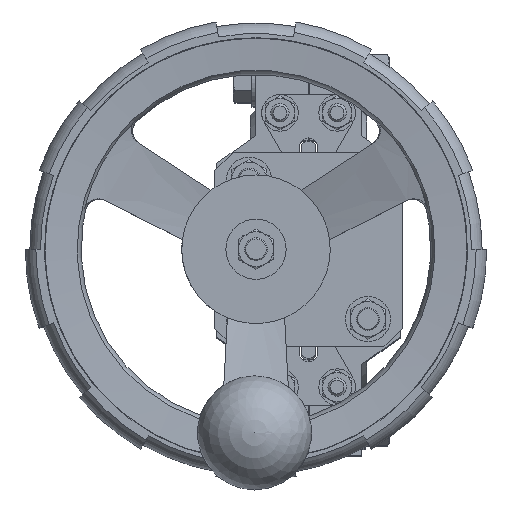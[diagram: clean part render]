
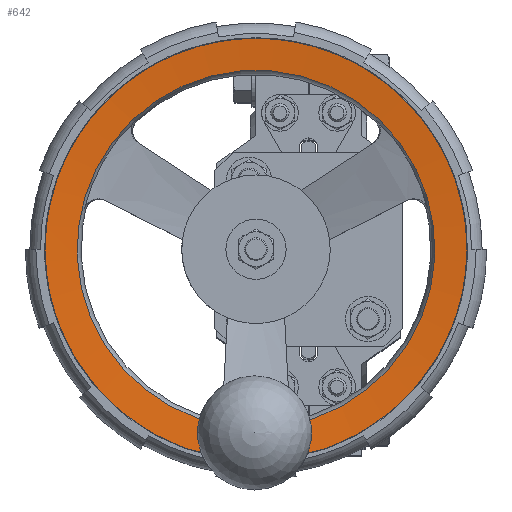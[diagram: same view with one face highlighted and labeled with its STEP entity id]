
A CAD part, top view. The second image highlights one B-rep face of the part: STEP entity #642.
In plain terms, the highlighted conical face has half-angle 85 degrees and reference radius 92.5 mm.
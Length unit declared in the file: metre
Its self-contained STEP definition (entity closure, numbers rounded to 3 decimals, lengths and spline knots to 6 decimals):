
#642=ADVANCED_FACE('',(#2693),#2694,.F.);
#2693=FACE_OUTER_BOUND('',#6137,.T.);
#2694=CONICAL_SURFACE('',#6138,0.0925,1.484);
#6137=EDGE_LOOP('',(#12656,#12657,#12658,#12659,#12660,#12661));
#6138=AXIS2_PLACEMENT_3D('',#12662,#12663,#12664);
#12656=ORIENTED_EDGE('',*,*,#20806,.F.);
#12657=ORIENTED_EDGE('',*,*,#20798,.T.);
#12658=ORIENTED_EDGE('',*,*,#20807,.T.);
#12659=ORIENTED_EDGE('',*,*,#20808,.T.);
#12660=ORIENTED_EDGE('',*,*,#20809,.T.);
#12661=ORIENTED_EDGE('',*,*,#20791,.T.);
#12662=CARTESIAN_POINT('',(-0.023,0.,0.345244));
#12663=DIRECTION('',(0.,0.,1.));
#12664=DIRECTION('',(0.,1.,0.));
#20791=EDGE_CURVE('',#25201,#25198,#25202,.T.);
#20798=EDGE_CURVE('',#25214,#25215,#25216,.T.);
#20806=EDGE_CURVE('',#25214,#25198,#25230,.T.);
#20807=EDGE_CURVE('',#25215,#25231,#25232,.T.);
#20808=EDGE_CURVE('',#25231,#25233,#25234,.T.);
#20809=EDGE_CURVE('',#25233,#25201,#25235,.T.);
#25198=VERTEX_POINT('',#33279);
#25201=VERTEX_POINT('',#33283);
#25202=B_SPLINE_CURVE_WITH_KNOTS('',3,(#33284,#33285,#33286,#33287),.UNSPECIFIED.,.F.,.F.,(4,4),(0.021218,0.032913),.UNSPECIFIED.);
#25214=VERTEX_POINT('',#33337);
#25215=VERTEX_POINT('',#33338);
#25216=B_SPLINE_CURVE_WITH_KNOTS('',3,(#33339,#33340,#33341,#33342),.UNSPECIFIED.,.F.,.F.,(4,4),(0.012702,0.024396),.UNSPECIFIED.);
#25230=CIRCLE('',#33395,0.0925);
#25231=VERTEX_POINT('',#33396);
#25232=B_SPLINE_CURVE_WITH_KNOTS('',3,(#33397,#33398,#33399,#33400,#33401,#33402),.UNSPECIFIED.,.F.,.F.,(4,2,4),(0.019436,0.020778,0.022121),.UNSPECIFIED.);
#25233=VERTEX_POINT('',#33403);
#25234=CIRCLE('',#33404,0.07828);
#25235=B_SPLINE_CURVE_WITH_KNOTS('',3,(#33405,#33406,#33407,#33408),.UNSPECIFIED.,.F.,.F.,(4,4),(0.000002,0.002702),.UNSPECIFIED.);
#33279=CARTESIAN_POINT('',(-0.0105,-0.091652,0.345244));
#33283=CARTESIAN_POINT('',(-0.0105,-0.080001,0.344235));
#33284=CARTESIAN_POINT('',(-0.0105,-0.080001,0.344235));
#33285=CARTESIAN_POINT('',(-0.0105,-0.083885,0.344571));
#33286=CARTESIAN_POINT('',(-0.0105,-0.087768,0.344907));
#33287=CARTESIAN_POINT('',(-0.0105,-0.091652,0.345244));
#33337=CARTESIAN_POINT('',(-0.0355,-0.091652,0.345244));
#33338=CARTESIAN_POINT('',(-0.0355,-0.080001,0.344235));
#33339=CARTESIAN_POINT('',(-0.0355,-0.091652,0.345244));
#33340=CARTESIAN_POINT('',(-0.0355,-0.087768,0.344907));
#33341=CARTESIAN_POINT('',(-0.0355,-0.083885,0.344571));
#33342=CARTESIAN_POINT('',(-0.0355,-0.080001,0.344235));
#33395=AXIS2_PLACEMENT_3D('',#41385,#41386,#41387);
#33396=CARTESIAN_POINT('',(-0.03521,-0.077322,0.344));
#33397=CARTESIAN_POINT('',(-0.0355,-0.080001,0.344235));
#33398=CARTESIAN_POINT('',(-0.0355,-0.079555,0.344197));
#33399=CARTESIAN_POINT('',(-0.035476,-0.079108,0.344158));
#33400=CARTESIAN_POINT('',(-0.035379,-0.078211,0.344079));
#33401=CARTESIAN_POINT('',(-0.035307,-0.077764,0.344039));
#33402=CARTESIAN_POINT('',(-0.03521,-0.077322,0.344));
#33403=CARTESIAN_POINT('',(-0.01079,-0.077322,0.344));
#33404=AXIS2_PLACEMENT_3D('',#41388,#41389,#41390);
#33405=CARTESIAN_POINT('',(-0.01079,-0.077322,0.344));
#33406=CARTESIAN_POINT('',(-0.010596,-0.078211,0.344079));
#33407=CARTESIAN_POINT('',(-0.0105,-0.079104,0.344158));
#33408=CARTESIAN_POINT('',(-0.0105,-0.080001,0.344235));
#41385=CARTESIAN_POINT('',(-0.023,0.,0.345244));
#41386=DIRECTION('',(0.,0.,-1.));
#41387=DIRECTION('',(0.,-1.,0.));
#41388=CARTESIAN_POINT('',(-0.023,0.,0.344));
#41389=DIRECTION('',(0.,0.,-1.));
#41390=DIRECTION('',(0.,-1.,0.));
